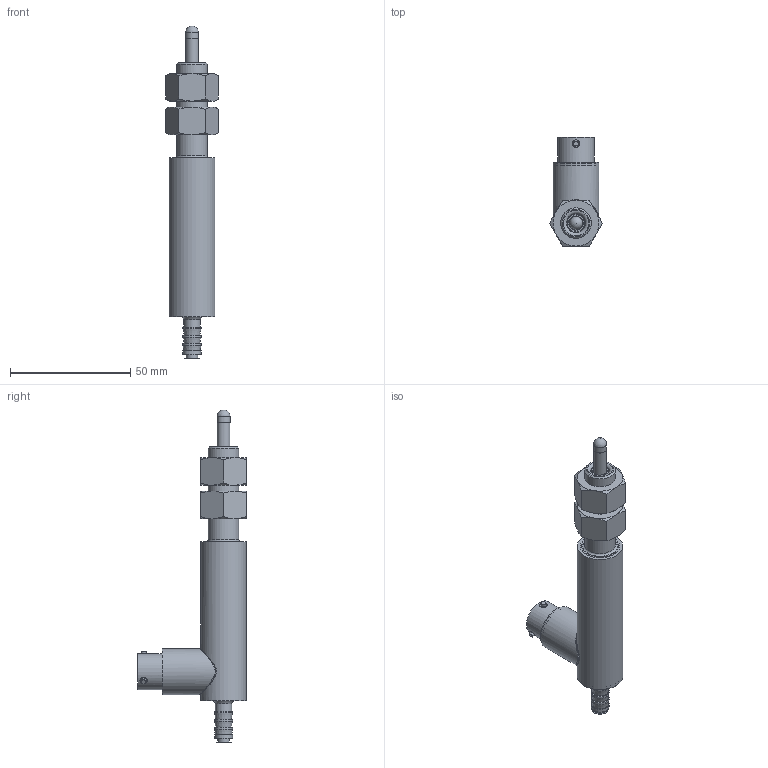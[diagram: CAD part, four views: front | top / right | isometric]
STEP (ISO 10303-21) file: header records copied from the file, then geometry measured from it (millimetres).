
FILE_DESCRIPTION(/* description */ (''),/* implementation_level */ '2;1');
FILE_NAME(/* name */ 'F:\GHRA SERIES\GHRA-750-A-XXXX\GHRA-750-A-125\GHRA-750-A-125 ASSEMBLY.iam.stp',/* time_stamp */ '2021-11-17T12:45:34-05:00',/* author */ ('J. Nielson'),/* organization */ (''),/* preprocessor_version */ 'ST-DEVELOPER v18.1',/* originating_system */ 'Autodesk Inventor 2022',/* authorisation */ '');
FILE_SCHEMA (('AUTOMOTIVE_DESIGN { 1 0 10303 214 3 1 1 }'));
Length unit declared in the file: inch
Products named in the file (4): GHRA-750-A-125 ASSEMBLY; GHRA-750-A-125 HOUSING_Shrinkwrap_1; GHRA-750-A-050 SHAFT_SW; AS 2465 - 1/2  UNF
Assembly tree (4 placements, depth 2):
  GHRA-750-A-125 ASSEMBLY
    GHRA-750-A-125 HOUSING_Shrinkwrap_1
    GHRA-750-A-050 SHAFT_SW
    AS 2465 - 1/2  UNF  x2
Bounding box: 22 x 45.24 x 137.79 mm (x, y, z)
Volume: 18902.3 mm3; surface area: 21600.3 mm2
Topology: 17 solids, 17 shells, 223 faces, 442 edges, 284 vertices
Faces by surface type: plane 89, cylinder 74, cone 47, bspline 7, torus 5, sphere 1
Full cylindrical faces by diameter (mm): 0.762 x12, 1.905 x1, 2.032 x3, 2.845 x2, 3.048 x3, 4.762 x1, 4.826 x2, 5.334 x4, 5.397 x1, 6 x1, 6.731 x1, 7.493 x4, 7.671 x2, 7.874 x1, 11.328 x2, 12.7 x1, 13.208 x1, 14.986 x1, 15.748 x2, 16.51 x1, 17.018 x1, 17.069 x1, 17.78 x1, 18.034 x1, 18.415 x6, 19.05 x2
Entity records: 7495 total; most frequent: CARTESIAN_POINT 2866, DIRECTION 950, ORIENTED_EDGE 780, AXIS2_PLACEMENT_3D 407, EDGE_CURVE 390, EDGE_LOOP 259, VERTEX_POINT 255, CIRCLE 206
